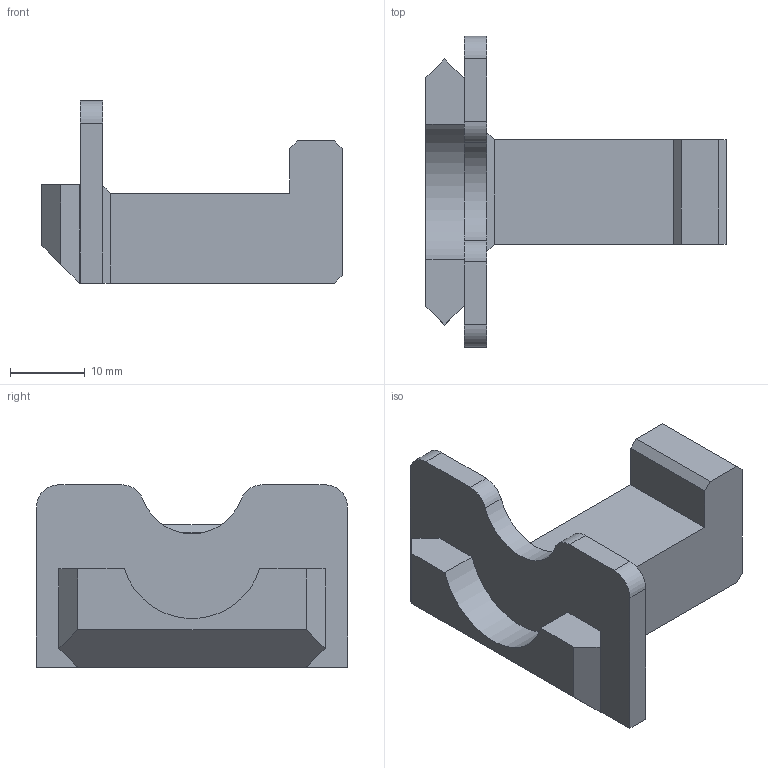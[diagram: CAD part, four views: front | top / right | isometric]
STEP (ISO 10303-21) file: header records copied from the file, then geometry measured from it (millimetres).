
FILE_DESCRIPTION(/* description */ ('','CAx-IF Rec.Pracs.---Representation and Presentation of Product Manufacturing Information (PMI)---4.0---2014-10-13'),/* implementation_level */ '2;1');
FILE_NAME(/* name */ 'GOEWS Single Hanger Hook 24mm HD v1.step',/* time_stamp */ '2024-12-06T11:47:55-05:00',/* author */ (''),/* organization */ (''),/* preprocessor_version */ 'ST-DEVELOPER v20',/* originating_system */ 'Autodesk Translation Framework v13.20.0.188',/* authorisation */ '');
FILE_SCHEMA (('AP242_MANAGED_MODEL_BASED_3D_ENGINEERING_MIM_LF { 1 0 10303 442 1 1 4 }'));
Length unit declared in the file: millimetre
Products named in the file (1): GOEWS Single Hanger Hook 24mm HD
Bounding box: 40.15 x 41.6 x 24.39 mm (x, y, z)
Volume: 10254.6 mm3; surface area: 4633.9 mm2
Topology: 1 solids, 1 shells, 36 faces, 95 edges, 62 vertices
Faces by surface type: plane 30, cylinder 6
Entity records: 1132 total; most frequent: CARTESIAN_POINT 194, ORIENTED_EDGE 190, DIRECTION 181, EDGE_CURVE 95, LINE 83, VECTOR 83, VERTEX_POINT 62, AXIS2_PLACEMENT_3D 49
